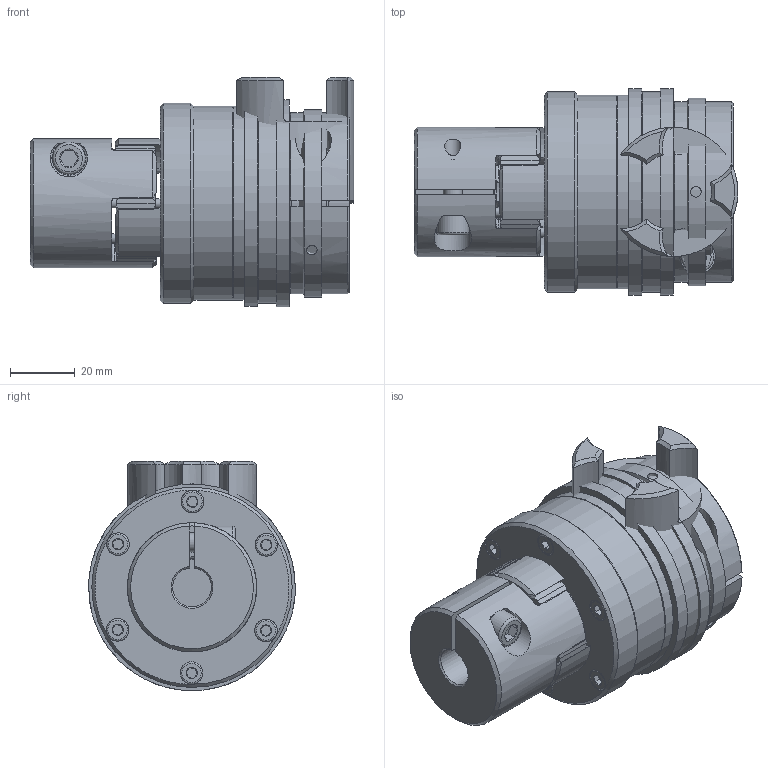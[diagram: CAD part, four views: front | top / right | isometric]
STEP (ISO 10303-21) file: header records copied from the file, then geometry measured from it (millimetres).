
FILE_DESCRIPTION( ( 'Unknown' ), '1' );
FILE_NAME( 'C:/Dokumente und Einstellungen/Sven/Desktop/hp kbk/E-KK/KBK EKK-19-100.stp', 'Unknown', ( 'Unknown' ), ( 'Unknown' ), 'XStep 1.0', 'Unknown', ' ' );
FILE_SCHEMA( ( 'automotive_design' ) );
Length unit declared in the file: millimetre
Products named in the file (16): Assem1; Assem2; ball_bearing_-_6005_0_01; ball_bearing_-_6005_0_02; ball_bearing_-_6005_0_03; Stellring 30; Druckring 30; a_25; Flansch L30; Elastomerflansch 19; Zahnkranz_19; ISO EN DIN 4762_M4x16; KBE 2 - 19_Nabe; L-K-30 Grundkörper; Klemmnabe 30; ISO EN DIN 4762 M6x18
Bounding box: 100.2 x 64 x 71 mm (x, y, z)
Volume: 374729.7 mm3; surface area: 164969.8 mm2
Topology: 37 solids, 37 shells, 847 faces, 1861 edges, 1170 vertices
Faces by surface type: plane 298, cylinder 274, cone 208, torus 67
Full cylindrical faces by diameter (mm): 2 x4, 3 x12, 3.242 x18, 3.5 x7, 4 x14, 4.2 x12, 4.917 x2, 5 x5, 6 x6, 6.4 x2, 6.5 x2, 7 x19, 8 x2, 10 x5, 11 x2, 18 x4, 23.9 x2, 25 x7, 30 x2, 32 x6, 34 x2, 38 x4, 40 x2, 40.3 x6, 47 x7, 52 x2, 58 x2, 60 x4, 62 x2, 64 x2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
Entity records: 10034 total; most frequent: CARTESIAN_POINT 2534, DIRECTION 1581, ORIENTED_EDGE 1294, AXIS2_PLACEMENT_3D 714, EDGE_CURVE 647, EDGE_LOOP 514, VERTEX_POINT 465, FACE_OUTER_BOUND 422
